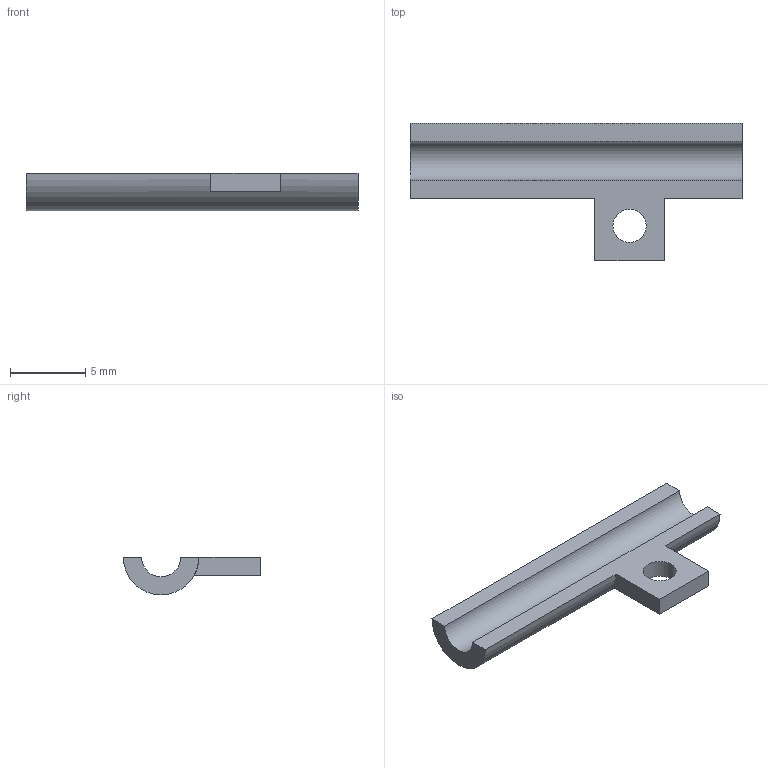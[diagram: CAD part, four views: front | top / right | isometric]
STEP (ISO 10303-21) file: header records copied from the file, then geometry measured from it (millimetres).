
FILE_DESCRIPTION(/* description */ (''),/* implementation_level */ '2;1');
FILE_NAME(/* name */ 'P17.step',/* time_stamp */ '2026-09-14T14:31:06-07:00',/* author */ (''),/* organization */ (''),/* preprocessor_version */ 'ST-DEVELOPER v20.1',/* originating_system */ 'Autodesk Translation Framework v15.8.0.0',/* authorisation */ '');
FILE_SCHEMA (('AUTOMOTIVE_DESIGN { 1 0 10303 214 3 1 1 }'));
Length unit declared in the file: millimetre
Products named in the file (1): 2026-09-14-14-31-06-948
Bounding box: 22 x 9.1 x 2.5 mm (x, y, z)
Volume: 176.2 mm3; surface area: 379.4 mm2
Topology: 1 solids, 1 shells, 11 faces, 27 edges, 18 vertices
Faces by surface type: plane 8, cylinder 3
Full cylindrical faces by diameter (mm): 2.2 x1
Entity records: 366 total; most frequent: DIRECTION 59, CARTESIAN_POINT 57, ORIENTED_EDGE 54, EDGE_CURVE 27, AXIS2_PLACEMENT_3D 20, LINE 19, VECTOR 19, VERTEX_POINT 18
